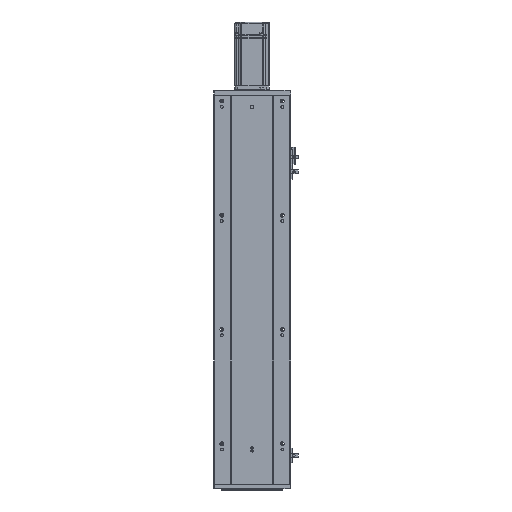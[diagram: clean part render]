
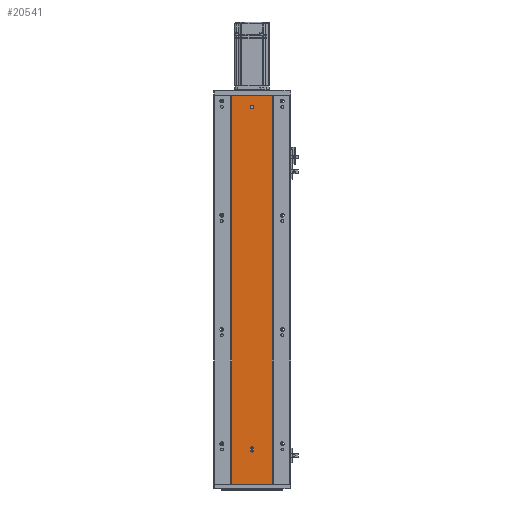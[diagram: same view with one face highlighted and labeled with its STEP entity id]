
A CAD part, front view. The second image highlights one B-rep face of the part: STEP entity #20541.
In plain terms, the highlighted planar face has unit normal (0, -1, 0).
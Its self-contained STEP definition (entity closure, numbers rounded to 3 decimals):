
#126 = CARTESIAN_POINT ( 'NONE',  ( 0., 78.746, 0. ) ) ;
#2077 = AXIS2_PLACEMENT_3D ( 'NONE', #25718, #15392, #46466 ) ;
#3792 = ORIENTED_EDGE ( 'NONE', *, *, #36214, .F. ) ;
#4921 = VECTOR ( 'NONE', #13701, 1000. ) ;
#5398 = VECTOR ( 'NONE', #28223, 1000. ) ;
#7088 = DIRECTION ( 'NONE',  ( 0., 0., 1. ) ) ;
#7635 = DIRECTION ( 'NONE',  ( 0., 0., -1. ) ) ;
#10297 = DIRECTION ( 'NONE',  ( 0., -1., 0. ) ) ;
#11894 = VERTEX_POINT ( 'NONE', #24279 ) ;
#13701 = DIRECTION ( 'NONE',  ( 0., 0., -1. ) ) ;
#13870 = CARTESIAN_POINT ( 'NONE',  ( 134.505, 78.746, 59.5 ) ) ;
#13887 = VERTEX_POINT ( 'NONE', #42435 ) ;
#14067 = CARTESIAN_POINT ( 'NONE',  ( 131.505, 78.746, 59.5 ) ) ;
#15074 = DIRECTION ( 'NONE',  ( 1., 0., 0. ) ) ;
#15260 = CARTESIAN_POINT ( 'NONE',  ( 137.505, 78.746, 59.5 ) ) ;
#15392 = DIRECTION ( 'NONE',  ( 0., -1., 0. ) ) ;
#15508 = DIRECTION ( 'NONE',  ( 0., -1., 0. ) ) ;
#15920 = LINE ( 'NONE', #44334, #34397 ) ;
#16947 = VECTOR ( 'NONE', #23025, 1000. ) ;
#17611 = VERTEX_POINT ( 'NONE', #47987 ) ;
#19075 = LINE ( 'NONE', #53196, #5398 ) ;
#19251 = ORIENTED_EDGE ( 'NONE', *, *, #58345, .F. ) ;
#20395 = DIRECTION ( 'NONE',  ( 1., 0., 0. ) ) ;
#20541 = ADVANCED_FACE ( 'NONE', ( #27670, #65475, #36550 ), #59771, .T. ) ;
#20872 = ORIENTED_EDGE ( 'NONE', *, *, #50786, .T. ) ;
#20960 = ORIENTED_EDGE ( 'NONE', *, *, #41428, .T. ) ;
#21255 = ORIENTED_EDGE ( 'NONE', *, *, #31376, .F. ) ;
#22369 = CIRCLE ( 'NONE', #40277, 3. ) ;
#22470 = EDGE_LOOP ( 'NONE', ( #59578, #19251, #48671, #3792 ) ) ;
#23025 = DIRECTION ( 'NONE',  ( -1., 0., 0. ) ) ;
#24279 = CARTESIAN_POINT ( 'NONE',  ( 134.505, 78.746, 664. ) ) ;
#24296 = ORIENTED_EDGE ( 'NONE', *, *, #36927, .F. ) ;
#24666 = EDGE_CURVE ( 'NONE', #30468, #51645, #22369, .T. ) ;
#25718 = CARTESIAN_POINT ( 'NONE',  ( 134.505, 78.746, 661. ) ) ;
#27670 = FACE_BOUND ( 'NONE', #22470, .T. ) ;
#28223 = DIRECTION ( 'NONE',  ( 0., 0., -1. ) ) ;
#28447 = CARTESIAN_POINT ( 'NONE',  ( 137.505, 78.746, 62.5 ) ) ;
#28695 = VECTOR ( 'NONE', #7088, 1000. ) ;
#28949 = DIRECTION ( 'NONE',  ( 0., -1., 0. ) ) ;
#29235 = CARTESIAN_POINT ( 'NONE',  ( 99.005, 78.746, 681. ) ) ;
#29857 = DIRECTION ( 'NONE',  ( 0., -1., 0. ) ) ;
#30119 = CARTESIAN_POINT ( 'NONE',  ( 134.505, 78.746, 62.5 ) ) ;
#30468 = VERTEX_POINT ( 'NONE', #32833 ) ;
#31376 = EDGE_CURVE ( 'NONE', #50489, #17611, #64871, .T. ) ;
#31837 = CARTESIAN_POINT ( 'NONE',  ( 170.005, 78.746, 0. ) ) ;
#32396 = AXIS2_PLACEMENT_3D ( 'NONE', #13870, #28949, #44958 ) ;
#32833 = CARTESIAN_POINT ( 'NONE',  ( 137.505, 78.746, 62.5 ) ) ;
#32842 = VERTEX_POINT ( 'NONE', #14067 ) ;
#33149 = CIRCLE ( 'NONE', #34678, 3. ) ;
#33678 = EDGE_CURVE ( 'NONE', #11894, #13887, #33149, .T. ) ;
#33944 = VERTEX_POINT ( 'NONE', #43388 ) ;
#34397 = VECTOR ( 'NONE', #7635, 1000. ) ;
#34582 = DIRECTION ( 'NONE',  ( 1., 0., 0. ) ) ;
#34678 = AXIS2_PLACEMENT_3D ( 'NONE', #66317, #15508, #15074 ) ;
#35027 = CARTESIAN_POINT ( 'NONE',  ( 0., 78.746, 681. ) ) ;
#36214 = EDGE_CURVE ( 'NONE', #51645, #32842, #15920, .T. ) ;
#36550 = FACE_OUTER_BOUND ( 'NONE', #47557, .T. ) ;
#36927 = EDGE_CURVE ( 'NONE', #13887, #11894, #44034, .T. ) ;
#38595 = EDGE_LOOP ( 'NONE', ( #24296, #55998 ) ) ;
#40277 = AXIS2_PLACEMENT_3D ( 'NONE', #30119, #10297, #20395 ) ;
#41428 = EDGE_CURVE ( 'NONE', #33944, #17611, #61278, .T. ) ;
#41549 = VERTEX_POINT ( 'NONE', #15260 ) ;
#42435 = CARTESIAN_POINT ( 'NONE',  ( 134.505, 78.746, 658. ) ) ;
#43388 = CARTESIAN_POINT ( 'NONE',  ( 99.005, 78.746, 681. ) ) ;
#43985 = CARTESIAN_POINT ( 'NONE',  ( 0., 78.746, 681. ) ) ;
#44034 = CIRCLE ( 'NONE', #2077, 3. ) ;
#44334 = CARTESIAN_POINT ( 'NONE',  ( 131.505, 78.746, 62.5 ) ) ;
#44958 = DIRECTION ( 'NONE',  ( 1., 0., 0. ) ) ;
#46402 = VECTOR ( 'NONE', #61941, 1000. ) ;
#46466 = DIRECTION ( 'NONE',  ( 1., 0., 0. ) ) ;
#47319 = VERTEX_POINT ( 'NONE', #55588 ) ;
#47557 = EDGE_LOOP ( 'NONE', ( #21255, #61972, #20872, #20960 ) ) ;
#47987 = CARTESIAN_POINT ( 'NONE',  ( 99.005, 78.746, 0. ) ) ;
#48671 = ORIENTED_EDGE ( 'NONE', *, *, #50262, .F. ) ;
#50262 = EDGE_CURVE ( 'NONE', #32842, #41549, #51648, .T. ) ;
#50419 = LINE ( 'NONE', #28447, #28695 ) ;
#50489 = VERTEX_POINT ( 'NONE', #31837 ) ;
#50786 = EDGE_CURVE ( 'NONE', #47319, #33944, #66020, .T. ) ;
#51645 = VERTEX_POINT ( 'NONE', #62042 ) ;
#51648 = CIRCLE ( 'NONE', #32396, 3. ) ;
#53117 = EDGE_CURVE ( 'NONE', #47319, #50489, #19075, .T. ) ;
#53196 = CARTESIAN_POINT ( 'NONE',  ( 170.005, 78.746, 681. ) ) ;
#55588 = CARTESIAN_POINT ( 'NONE',  ( 170.005, 78.746, 681. ) ) ;
#55998 = ORIENTED_EDGE ( 'NONE', *, *, #33678, .F. ) ;
#58345 = EDGE_CURVE ( 'NONE', #41549, #30468, #50419, .T. ) ;
#59578 = ORIENTED_EDGE ( 'NONE', *, *, #24666, .F. ) ;
#59771 = PLANE ( 'NONE',  #65476 ) ;
#61278 = LINE ( 'NONE', #29235, #4921 ) ;
#61941 = DIRECTION ( 'NONE',  ( -1., 0., 0. ) ) ;
#61972 = ORIENTED_EDGE ( 'NONE', *, *, #53117, .F. ) ;
#62042 = CARTESIAN_POINT ( 'NONE',  ( 131.505, 78.746, 62.5 ) ) ;
#64871 = LINE ( 'NONE', #126, #46402 ) ;
#65475 = FACE_BOUND ( 'NONE', #38595, .T. ) ;
#65476 = AXIS2_PLACEMENT_3D ( 'NONE', #35027, #29857, #34582 ) ;
#66020 = LINE ( 'NONE', #43985, #16947 ) ;
#66317 = CARTESIAN_POINT ( 'NONE',  ( 134.505, 78.746, 661. ) ) ;
